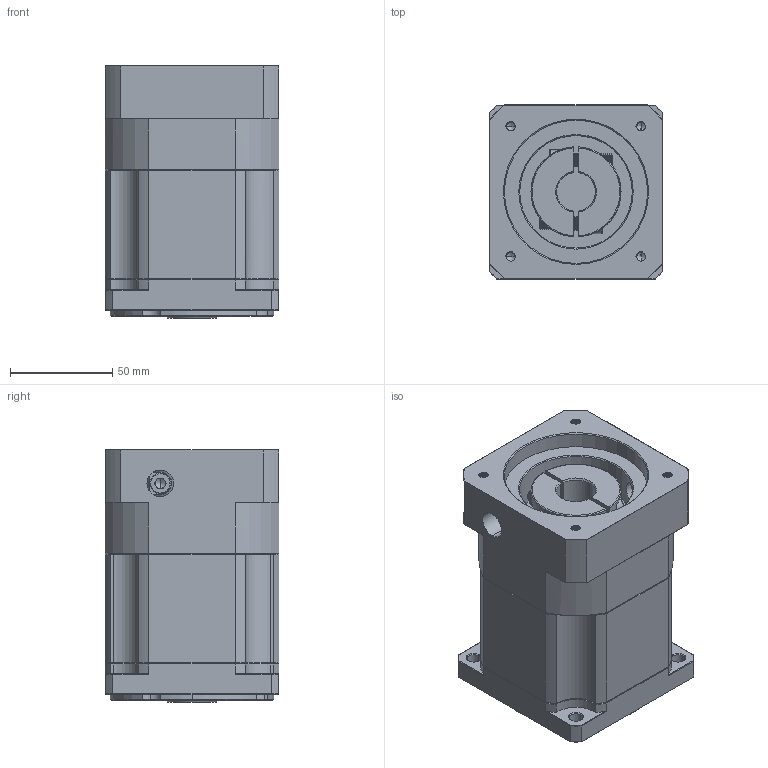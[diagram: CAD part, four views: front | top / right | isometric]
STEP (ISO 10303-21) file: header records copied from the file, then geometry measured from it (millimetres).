
FILE_DESCRIPTION (( 'STEP AP214' ), '1' );
FILE_NAME ('ZB090-K15-L2-P2-19-70-90-M5.step', '2023-08-18T12:18:15', ( '' ), ( '' ), 'SwSTEP 2.0', 'SolidWorks 2016', '' );
FILE_SCHEMA (( 'AUTOMOTIVE_DESIGN' ));
Length unit declared in the file: millimetre
Products named in the file (1): ZB090-K15-L2-P2-19-70-90-M5
Bounding box: 85 x 85 x 123.5 mm (x, y, z)
Volume: 712545.2 mm3; surface area: 88888.6 mm2
Topology: 4 solids, 4 shells, 2129 faces, 5692 edges, 3644 vertices
Faces by surface type: plane 1049, bspline 405, cylinder 352, cone 313, torus 10
Entity records: 114129 total; most frequent: CARTESIAN_POINT 40821, ORIENTED_EDGE 11344, DIRECTION 8812, EDGE_CURVE 5672, LINE 3650, VECTOR 3650, VERTEX_POINT 3644, AXIS2_PLACEMENT_3D 2581
